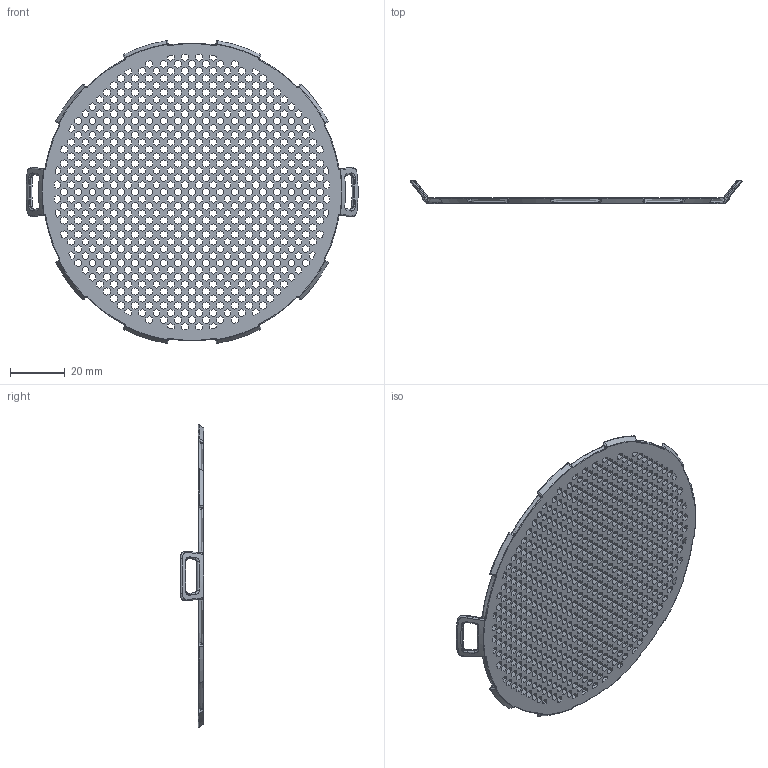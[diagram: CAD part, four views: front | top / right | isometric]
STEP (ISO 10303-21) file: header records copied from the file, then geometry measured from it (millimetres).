
FILE_DESCRIPTION(/* description */ (''),/* implementation_level */ '2;1');
FILE_NAME(/* name */ 'fine mesh v2.step',/* time_stamp */ '2024-10-07T16:54:33-04:00',/* author */ (''),/* organization */ (''),/* preprocessor_version */ 'ST-DEVELOPER v20',/* originating_system */ 'Autodesk Translation Framework v13.20.0.188',/* authorisation */ '');
FILE_SCHEMA (('AUTOMOTIVE_DESIGN { 1 0 10303 214 3 1 1 }'));
Products named in the file (1): fine mesh
Bounding box: 121.56 x 8.5 x 110.85 mm (x, y, z)
Volume: 12891.7 mm3; surface area: 24031.2 mm2
Topology: 1 solids, 1 shells, 3878 faces, 11428 edges, 7552 vertices
Faces by surface type: plane 3562, bspline 140, cylinder 90, torus 74, cone 12
Entity records: 133513 total; most frequent: CARTESIAN_POINT 28419, ORIENTED_EDGE 22856, DIRECTION 19020, EDGE_CURVE 11428, LINE 10714, VECTOR 10714, VERTEX_POINT 7552, EDGE_LOOP 5068
